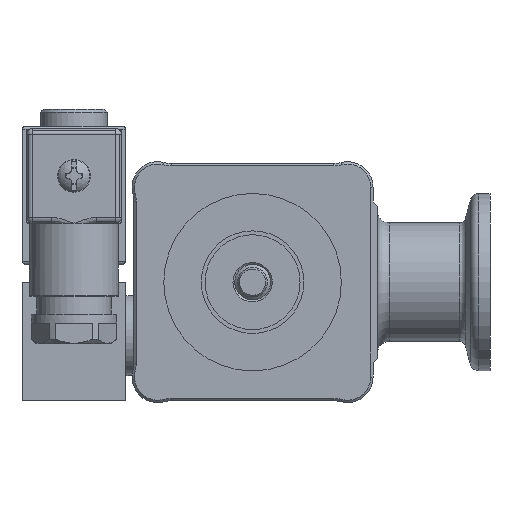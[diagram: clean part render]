
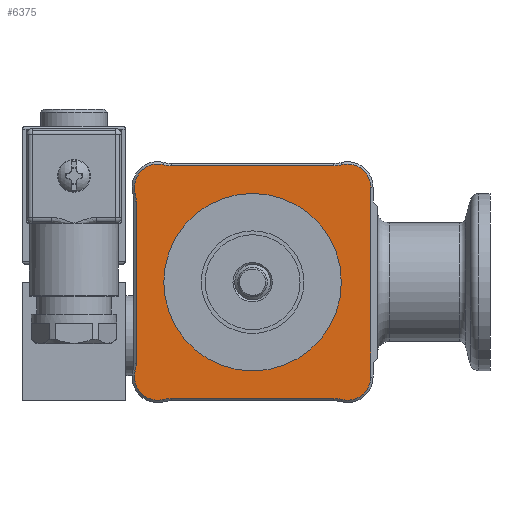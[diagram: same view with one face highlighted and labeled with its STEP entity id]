
A CAD part, front view. The second image highlights one B-rep face of the part: STEP entity #6375.
In plain terms, the highlighted planar face has unit normal (0, -1, 0).
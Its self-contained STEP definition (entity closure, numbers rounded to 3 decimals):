
#4374=LINE('',#22196,#5312);
#4375=LINE('',#22202,#5313);
#4376=LINE('',#22210,#5314);
#4377=LINE('',#22218,#5315);
#5312=VECTOR('',#17839,1.);
#5313=VECTOR('',#17844,1.);
#5314=VECTOR('',#17851,1.);
#5315=VECTOR('',#17858,1.);
#6375=ADVANCED_FACE('102-0-17',(#7378,#7379),#6920,.F.);
#6920=PLANE('',#15505);
#7378=FACE_BOUND('',#8142,.T.);
#7379=FACE_BOUND('',#8143,.T.);
#8142=EDGE_LOOP('',(#10274));
#8143=EDGE_LOOP('',(#10275,#10276,#10277,#10278,#10279,#10280,#10281,#10282,
#10283,#10284,#10285,#10286,#10287,#10288));
#10274=ORIENTED_EDGE('',*,*,#13650,.T.);
#10275=ORIENTED_EDGE('',*,*,#13651,.T.);
#10276=ORIENTED_EDGE('',*,*,#13652,.T.);
#10277=ORIENTED_EDGE('',*,*,#13653,.T.);
#10278=ORIENTED_EDGE('',*,*,#13654,.T.);
#10279=ORIENTED_EDGE('',*,*,#13655,.T.);
#10280=ORIENTED_EDGE('',*,*,#13656,.T.);
#10281=ORIENTED_EDGE('',*,*,#13657,.T.);
#10282=ORIENTED_EDGE('',*,*,#13658,.T.);
#10283=ORIENTED_EDGE('',*,*,#13659,.T.);
#10284=ORIENTED_EDGE('',*,*,#13660,.T.);
#10285=ORIENTED_EDGE('',*,*,#13661,.T.);
#10286=ORIENTED_EDGE('',*,*,#13662,.T.);
#10287=ORIENTED_EDGE('',*,*,#13663,.T.);
#10288=ORIENTED_EDGE('',*,*,#13664,.T.);
#12310=VERTEX_POINT('',#22192);
#12311=VERTEX_POINT('',#22194);
#12312=VERTEX_POINT('',#22195);
#12313=VERTEX_POINT('',#22197);
#12314=VERTEX_POINT('',#22199);
#12315=VERTEX_POINT('',#22201);
#12316=VERTEX_POINT('',#22203);
#12317=VERTEX_POINT('',#22205);
#12318=VERTEX_POINT('',#22207);
#12319=VERTEX_POINT('',#22209);
#12320=VERTEX_POINT('',#22211);
#12321=VERTEX_POINT('',#22213);
#12322=VERTEX_POINT('',#22215);
#12323=VERTEX_POINT('',#22217);
#12324=VERTEX_POINT('',#22219);
#13650=EDGE_CURVE('',#12310,#12310,#14631,.T.);
#13651=EDGE_CURVE('',#12311,#12312,#14632,.T.);
#13652=EDGE_CURVE('',#12312,#12313,#4374,.T.);
#13653=EDGE_CURVE('',#12313,#12314,#14633,.T.);
#13654=EDGE_CURVE('',#12314,#12315,#14634,.T.);
#13655=EDGE_CURVE('',#12315,#12316,#4375,.T.);
#13656=EDGE_CURVE('',#12316,#12317,#14635,.T.);
#13657=EDGE_CURVE('',#12317,#12318,#14636,.T.);
#13658=EDGE_CURVE('',#12318,#12319,#14637,.T.);
#13659=EDGE_CURVE('',#12319,#12320,#4376,.T.);
#13660=EDGE_CURVE('',#12320,#12321,#14638,.T.);
#13661=EDGE_CURVE('',#12321,#12322,#14639,.T.);
#13662=EDGE_CURVE('',#12322,#12323,#14640,.T.);
#13663=EDGE_CURVE('',#12323,#12324,#4377,.T.);
#13664=EDGE_CURVE('',#12324,#12311,#14641,.T.);
#14631=CIRCLE('',#15494,12.);
#14632=CIRCLE('',#15495,3.9);
#14633=CIRCLE('',#15496,3.9);
#14634=CIRCLE('',#15497,5.4);
#14635=CIRCLE('',#15498,5.4);
#14636=CIRCLE('',#15499,3.9);
#14637=CIRCLE('',#15500,5.4);
#14638=CIRCLE('',#15501,5.4);
#14639=CIRCLE('',#15502,3.9);
#14640=CIRCLE('',#15503,5.4);
#14641=CIRCLE('',#15504,5.4);
#15494=AXIS2_PLACEMENT_3D('',#22191,#17835,#17836);
#15495=AXIS2_PLACEMENT_3D('',#22193,#17837,#17838);
#15496=AXIS2_PLACEMENT_3D('',#22198,#17840,#17841);
#15497=AXIS2_PLACEMENT_3D('',#22200,#17842,#17843);
#15498=AXIS2_PLACEMENT_3D('',#22204,#17845,#17846);
#15499=AXIS2_PLACEMENT_3D('',#22206,#17847,#17848);
#15500=AXIS2_PLACEMENT_3D('',#22208,#17849,#17850);
#15501=AXIS2_PLACEMENT_3D('',#22212,#17852,#17853);
#15502=AXIS2_PLACEMENT_3D('',#22214,#17854,#17855);
#15503=AXIS2_PLACEMENT_3D('',#22216,#17856,#17857);
#15504=AXIS2_PLACEMENT_3D('',#22220,#17859,#17860);
#15505=AXIS2_PLACEMENT_3D('',#22221,#17861,#17862);
#17835=DIRECTION('',(0.,1.,0.));
#17836=DIRECTION('',(0.,0.,1.));
#17837=DIRECTION('',(0.,-1.,0.));
#17838=DIRECTION('',(0.,0.,1.));
#17839=DIRECTION('',(0.,0.,1.));
#17840=DIRECTION('',(0.,-1.,0.));
#17841=DIRECTION('',(0.,0.,1.));
#17842=DIRECTION('',(0.,1.,0.));
#17843=DIRECTION('',(0.,0.,1.));
#17844=DIRECTION('',(-1.,0.,0.));
#17845=DIRECTION('',(0.,1.,0.));
#17846=DIRECTION('',(0.,0.,1.));
#17847=DIRECTION('',(0.,-1.,0.));
#17848=DIRECTION('',(0.,0.,1.));
#17849=DIRECTION('',(0.,1.,0.));
#17850=DIRECTION('',(0.,0.,1.));
#17851=DIRECTION('',(0.,0.,-1.));
#17852=DIRECTION('',(0.,1.,0.));
#17853=DIRECTION('',(0.,0.,1.));
#17854=DIRECTION('',(0.,-1.,0.));
#17855=DIRECTION('',(0.,0.,1.));
#17856=DIRECTION('',(0.,1.,0.));
#17857=DIRECTION('',(0.,0.,1.));
#17858=DIRECTION('',(1.,0.,0.));
#17859=DIRECTION('',(0.,1.,0.));
#17860=DIRECTION('',(0.,0.,1.));
#17861=DIRECTION('',(0.,1.,0.));
#17862=DIRECTION('',(0.,0.,1.));
#22191=CARTESIAN_POINT('',(0.,19.5,0.));
#22192=CARTESIAN_POINT('',(0.,19.5,12.));
#22193=CARTESIAN_POINT('',(16.,19.5,-16.));
#22194=CARTESIAN_POINT('',(15.017,19.5,-19.774));
#22195=CARTESIAN_POINT('',(19.9,19.5,-16.));
#22196=CARTESIAN_POINT('',(19.9,19.5,16.));
#22197=CARTESIAN_POINT('',(19.9,19.5,16.));
#22198=CARTESIAN_POINT('',(16.,19.5,16.));
#22199=CARTESIAN_POINT('',(15.017,19.5,19.774));
#22200=CARTESIAN_POINT('',(13.657,19.5,25.));
#22201=CARTESIAN_POINT('',(13.657,19.5,19.6));
#22202=CARTESIAN_POINT('',(-13.657,19.5,19.6));
#22203=CARTESIAN_POINT('',(-13.657,19.5,19.6));
#22204=CARTESIAN_POINT('',(-13.657,19.5,25.));
#22205=CARTESIAN_POINT('',(-15.017,19.5,19.774));
#22206=CARTESIAN_POINT('',(-16.,19.5,16.));
#22207=CARTESIAN_POINT('',(-19.774,19.5,15.017));
#22208=CARTESIAN_POINT('',(-25.,19.5,13.657));
#22209=CARTESIAN_POINT('',(-19.6,19.5,13.657));
#22210=CARTESIAN_POINT('',(-19.6,19.5,-13.657));
#22211=CARTESIAN_POINT('',(-19.6,19.5,-13.657));
#22212=CARTESIAN_POINT('',(-25.,19.5,-13.657));
#22213=CARTESIAN_POINT('',(-19.774,19.5,-15.017));
#22214=CARTESIAN_POINT('',(-16.,19.5,-16.));
#22215=CARTESIAN_POINT('',(-15.017,19.5,-19.774));
#22216=CARTESIAN_POINT('',(-13.657,19.5,-25.));
#22217=CARTESIAN_POINT('',(-13.657,19.5,-19.6));
#22218=CARTESIAN_POINT('',(13.657,19.5,-19.6));
#22219=CARTESIAN_POINT('',(13.657,19.5,-19.6));
#22220=CARTESIAN_POINT('',(13.657,19.5,-25.));
#22221=CARTESIAN_POINT('',(-21.3,19.5,-21.3));
